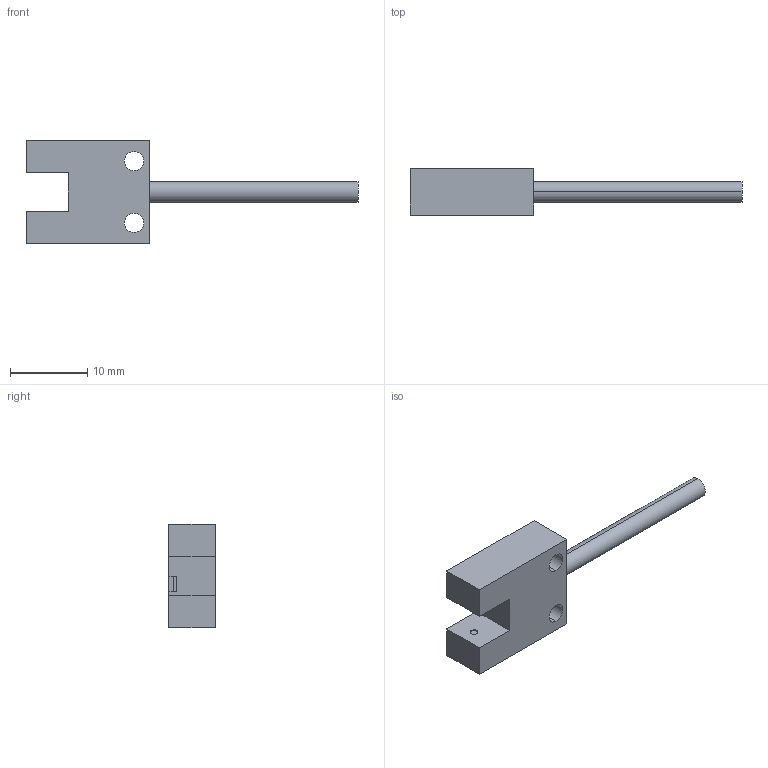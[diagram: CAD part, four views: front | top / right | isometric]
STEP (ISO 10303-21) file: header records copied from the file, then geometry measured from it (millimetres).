
FILE_DESCRIPTION (( 'STEP AP203' ), '1' );
FILE_NAME ('PM-U24.STEP', '2005-09-06T01:01:29', ( '' ), ( '' ), 'SwSTEP 2.0', 'SolidWorks 2004073', '' );
FILE_SCHEMA (( 'CONFIG_CONTROL_DESIGN' ));
Length unit declared in the file: millimetre
Products named in the file (1): PM-U24
Bounding box: 43 x 6 x 13.4 mm (x, y, z)
Volume: 1213.6 mm3; surface area: 1100.2 mm2
Topology: 1 solids, 1 shells, 29 faces, 72 edges, 48 vertices
Faces by surface type: plane 19, cylinder 10
Entity records: 951 total; most frequent: DIRECTION 152, CARTESIAN_POINT 150, ORIENTED_EDGE 144, EDGE_CURVE 72, VECTOR 52, LINE 52, AXIS2_PLACEMENT_3D 50, VERTEX_POINT 48
